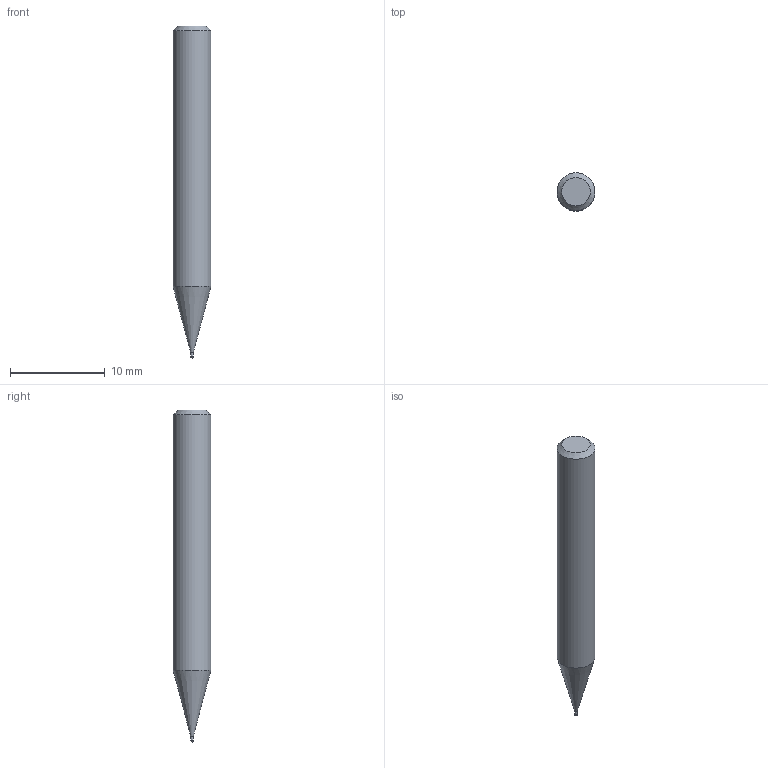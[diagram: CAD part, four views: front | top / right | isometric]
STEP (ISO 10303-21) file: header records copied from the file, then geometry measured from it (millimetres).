
FILE_DESCRIPTION((''),'2;1');
FILE_NAME('C:\Users\nsx150\AppData\Local\Temp\Mastercam 2021\QT8KEW0Y7J\TEMP.step','2021-04-23T11:20:22',(''),(''),'STEP Write','Mastercam 2021 ... CNC Software, Inc.','');
FILE_SCHEMA(('AUTOMOTIVE_DESIGN'));
Length unit declared in the file: millimetre
Products named in the file (1): None
Bounding box: 4 x 4 x 35 mm (x, y, z)
Volume: 374.9 mm3; surface area: 402.6 mm2
Topology: 2 solids, 2 shells, 9 faces, 14 edges, 8 vertices
Faces by surface type: plane 3, cylinder 3, cone 2, sphere 1
Full cylindrical faces by diameter (mm): 0.28 x1, 0.3 x1, 4 x1
Entity records: 211 total; most frequent: DIRECTION 36, CARTESIAN_POINT 25, AXIS2_PLACEMENT_3D 18, ORIENTED_EDGE 14, EDGE_LOOP 14, STYLED_ITEM 12, ADVANCED_FACE 9, FACE_BOUND 8
